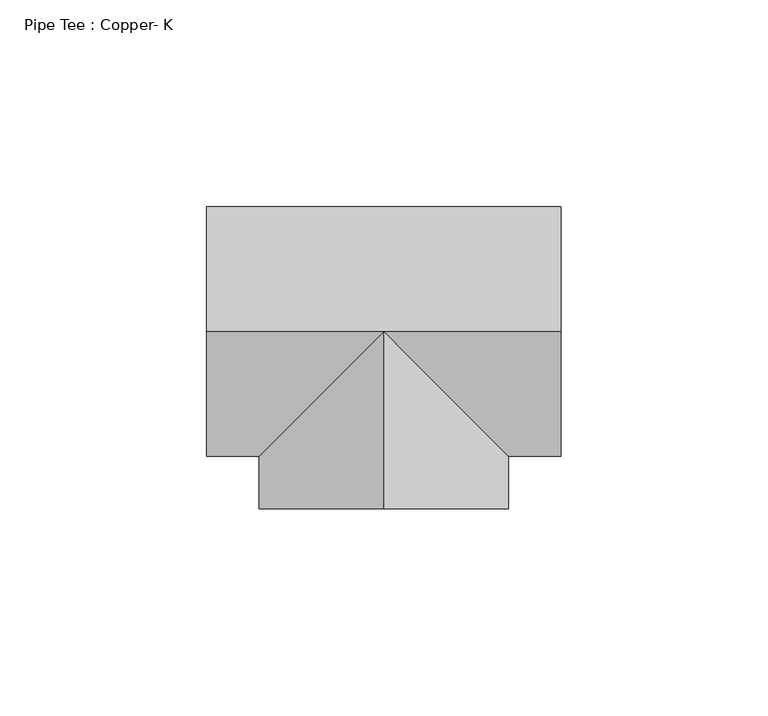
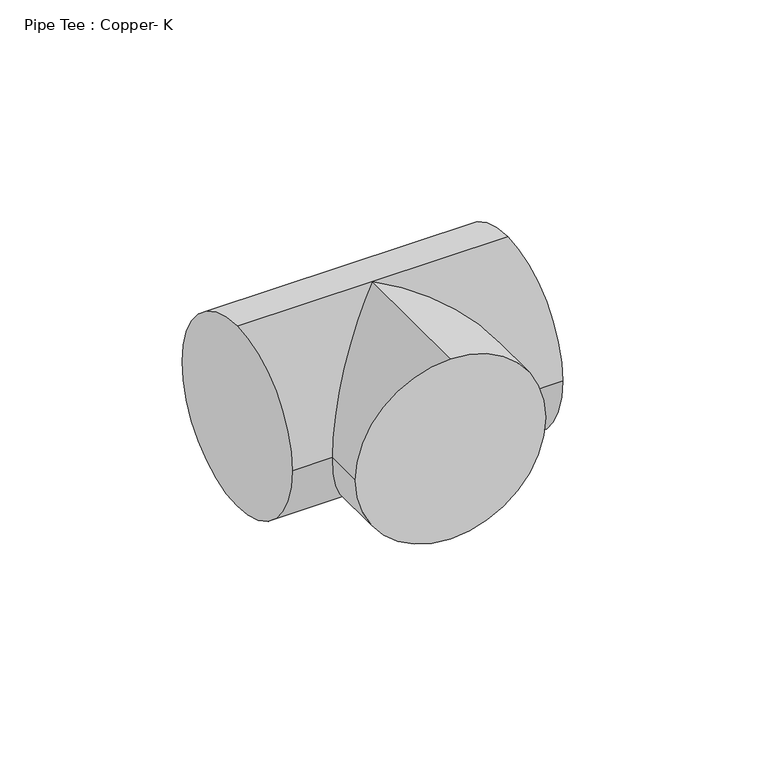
"""IFC4 building model written with IfcOpenShell, lengths in millimetres: pipe fitting geometry, Pipe Tee : Copper- K."""

from ifc_helpers import new_model, si_unit, frame, origin, place, context, project, spatial, circle_curve, ellipse_curve, source, transform, mapped, element, save
from ifc_brep_helpers import plane_surface, cylinder_surface, advanced_brep


def pipe_tee_copper_k_36278b8a(model_context):
    return source(origin(), model_context, "Body", "AdvancedBrep", [
        advanced_brep(
        [(-42.8625, 0.0, 30.1625), (-42.8625, 30.1625, 0.0), (-42.8625, 0.0, -30.1625), (-42.8625, -30.1625, 0.0), (42.8625, 0.0, 30.1625), (42.8625, -30.1625, 0.0), (42.8625, 0.0, -30.1625), (42.8625, 30.1625, 0.0), (0.0, 0.0, 30.1625), (0.0, 0.0, -30.1625), (-30.1625, -30.1625, 0.0), (30.1625, -30.1625, 0.0), (0.0, -42.8625, 30.1625), (-30.1625, -42.8625, 0.0), (0.0, -42.8625, -30.1625), (30.1625, -42.8625, 0.0)],
        [
            (0, 1, circle_curve(frame((-42.8625, 0.0, 0.0), z_axis=(-1.0, 0.0, 0.0), x_axis=(0.0, 1.0, 0.0)), 30.1625)),
            (1, 2, circle_curve(frame((-42.8625, 0.0, 0.0), z_axis=(-1.0, 0.0, 0.0), x_axis=(0.0, 1.0, 0.0)), 30.1625)),
            (2, 3, circle_curve(frame((-42.8625, 0.0, 0.0), z_axis=(-1.0, 0.0, 0.0), x_axis=(0.0, 1.0, 0.0)), 30.1625)),
            (3, 0, circle_curve(frame((-42.8625, 0.0, 0.0), z_axis=(-1.0, 0.0, 0.0), x_axis=(0.0, 1.0, 0.0)), 30.1625)),
            (4, 5, circle_curve(frame((42.8625, 0.0, 0.0), z_axis=(1.0, 0.0, 0.0), x_axis=(0.0, 1.0, 0.0)), 30.1625)),
            (5, 6, circle_curve(frame((42.8625, 0.0, 0.0), z_axis=(1.0, 0.0, 0.0), x_axis=(0.0, 1.0, 0.0)), 30.1625)),
            (6, 7, circle_curve(frame((42.8625, 0.0, 0.0), z_axis=(1.0, 0.0, 0.0), x_axis=(0.0, 1.0, 0.0)), 30.1625)),
            (7, 4, circle_curve(frame((42.8625, 0.0, 0.0), z_axis=(1.0, 0.0, 0.0), x_axis=(0.0, 1.0, 0.0)), 30.1625)),
            (0, 8),
            (8, 4),
            (7, 1),
            (6, 9),
            (9, 2),
            (9, 10, ellipse_curve(frame((0.0, 0.0, 0.0), z_axis=(-0.707106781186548, 0.7071067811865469, 0.0), x_axis=(-0.7071067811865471, -0.7071067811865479, 0.0)), 42.6562166, 30.1625)),
            (10, 3),
            (5, 11),
            (11, 9, ellipse_curve(frame((0.0, 0.0, 0.0), z_axis=(0.7071067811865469, 0.7071067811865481, 0.0), x_axis=(-0.7071067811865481, 0.7071067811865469, 0.0)), 42.6562166, 30.1625)),
            (10, 8, ellipse_curve(frame((0.0, 0.0, 0.0), z_axis=(-0.707106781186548, 0.7071067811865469, 0.0), x_axis=(-0.7071067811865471, -0.7071067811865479, 0.0)), 42.6562166, 30.1625)),
            (8, 11, ellipse_curve(frame((0.0, 0.0, 0.0), z_axis=(0.7071067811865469, 0.7071067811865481, 0.0), x_axis=(-0.7071067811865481, 0.7071067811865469, 0.0)), 42.6562166, 30.1625)),
            (12, 13, circle_curve(frame((0.0, -42.8625, 0.0), z_axis=(0.0, -1.0, 0.0), x_axis=(1.0, 0.0, 0.0)), 30.1625)),
            (13, 14, circle_curve(frame((0.0, -42.8625, 0.0), z_axis=(0.0, -1.0, 0.0), x_axis=(1.0, 0.0, 0.0)), 30.1625)),
            (14, 15, circle_curve(frame((0.0, -42.8625, 0.0), z_axis=(0.0, -1.0, 0.0), x_axis=(1.0, 0.0, 0.0)), 30.1625)),
            (15, 12, circle_curve(frame((0.0, -42.8625, 0.0), z_axis=(0.0, -1.0, 0.0), x_axis=(1.0, 0.0, 0.0)), 30.1625)),
            (15, 11),
            (8, 12),
            (14, 9),
            (13, 10),
        ],
        [
            plane_surface(frame((-42.8625, 0.0, 0.0), z_axis=(-1.0, 0.0, 0.0), x_axis=(0.0, 0.0, 1.0))),
            plane_surface(frame((42.8625, 0.0, 0.0), z_axis=(1.0, 0.0, 0.0), x_axis=(0.0, 0.0, 1.0))),
            cylinder_surface(frame((-42.8625, 0.0, 0.0), z_axis=(-1.0, 0.0, 0.0), x_axis=(0.0, 1.0, 0.0)), 30.1625),
            plane_surface(frame((0.0, -42.8625, 0.0), z_axis=(0.0, -1.0, 0.0), x_axis=(0.0, 0.0, 1.0))),
            cylinder_surface(frame((0.0, 0.0, 0.0), z_axis=(0.0, 1.0, 0.0), x_axis=(1.0, 0.0, 0.0)), 30.1625),
        ],
        [
            (0, [[1, 2, 3, 4]]),
            (1, [[5, 6, 7, 8]]),
            (2, [[-1, 9, 10, -8, 11]]),
            (2, [[-2, -11, -7, 12, 13]]),
            (2, [[-3, -13, 14, 15]]),
            (2, [[-6, 16, 17, -12]]),
            (2, [[-4, -15, 18, -9]]),
            (2, [[-5, -10, 19, -16]]),
            (3, [[20, 21, 22, 23]]),
            (4, [[-23, 24, -19, 25]]),
            (4, [[-22, 26, -17, -24]]),
            (4, [[-21, 27, -14, -26]]),
            (4, [[-20, -25, -18, -27]]),
        ],
    ),
        advanced_brep(
        [(-42.8625, 0.0, 30.1625), (-42.8625, 30.1625, 0.0), (-42.8625, 0.0, -30.1625), (-42.8625, -30.1625, 0.0), (42.8625, 0.0, 30.1625), (42.8625, -30.1625, 0.0), (42.8625, 0.0, -30.1625), (42.8625, 30.1625, 0.0), (0.0, 0.0, 30.1625), (0.0, 0.0, -30.1625), (-30.1625, -30.1625, 0.0), (30.1625, -30.1625, 0.0), (0.0, -42.8625, 30.1625), (-30.1625, -42.8625, 0.0), (0.0, -42.8625, -30.1625), (30.1625, -42.8625, 0.0)],
        [
            (0, 1, circle_curve(frame((-42.8625, 0.0, 0.0), z_axis=(-1.0, 0.0, 0.0), x_axis=(0.0, 1.0, 0.0)), 30.1625)),
            (1, 2, circle_curve(frame((-42.8625, 0.0, 0.0), z_axis=(-1.0, 0.0, 0.0), x_axis=(0.0, 1.0, 0.0)), 30.1625)),
            (2, 3, circle_curve(frame((-42.8625, 0.0, 0.0), z_axis=(-1.0, 0.0, 0.0), x_axis=(0.0, 1.0, 0.0)), 30.1625)),
            (3, 0, circle_curve(frame((-42.8625, 0.0, 0.0), z_axis=(-1.0, 0.0, 0.0), x_axis=(0.0, 1.0, 0.0)), 30.1625)),
            (4, 5, circle_curve(frame((42.8625, 0.0, 0.0), z_axis=(1.0, 0.0, 0.0), x_axis=(0.0, 1.0, 0.0)), 30.1625)),
            (5, 6, circle_curve(frame((42.8625, 0.0, 0.0), z_axis=(1.0, 0.0, 0.0), x_axis=(0.0, 1.0, 0.0)), 30.1625)),
            (6, 7, circle_curve(frame((42.8625, 0.0, 0.0), z_axis=(1.0, 0.0, 0.0), x_axis=(0.0, 1.0, 0.0)), 30.1625)),
            (7, 4, circle_curve(frame((42.8625, 0.0, 0.0), z_axis=(1.0, 0.0, 0.0), x_axis=(0.0, 1.0, 0.0)), 30.1625)),
            (0, 8),
            (8, 4),
            (7, 1),
            (6, 9),
            (9, 2),
            (9, 10, ellipse_curve(frame((0.0, 0.0, 0.0), z_axis=(-0.707106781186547, 0.7071067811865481, 0.0), x_axis=(-0.707106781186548, -0.707106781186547, 0.0)), 42.6562166, 30.1625)),
            (10, 3),
            (5, 11),
            (11, 9, ellipse_curve(frame((0.0, 0.0, 0.0), z_axis=(0.707106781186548, 0.7071067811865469, 0.0), x_axis=(-0.707106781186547, 0.707106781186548, 0.0)), 42.6562166, 30.1625)),
            (10, 8, ellipse_curve(frame((0.0, 0.0, 0.0), z_axis=(-0.707106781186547, 0.7071067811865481, 0.0), x_axis=(-0.707106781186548, -0.707106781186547, 0.0)), 42.6562166, 30.1625)),
            (8, 11, ellipse_curve(frame((0.0, 0.0, 0.0), z_axis=(0.707106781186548, 0.7071067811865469, 0.0), x_axis=(-0.707106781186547, 0.707106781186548, 0.0)), 42.6562166, 30.1625)),
            (12, 13, circle_curve(frame((0.0, -42.8625, 0.0), z_axis=(0.0, -1.0, 0.0), x_axis=(1.0, 0.0, 0.0)), 30.1625)),
            (13, 14, circle_curve(frame((0.0, -42.8625, 0.0), z_axis=(0.0, -1.0, 0.0), x_axis=(1.0, 0.0, 0.0)), 30.1625)),
            (14, 15, circle_curve(frame((0.0, -42.8625, 0.0), z_axis=(0.0, -1.0, 0.0), x_axis=(1.0, 0.0, 0.0)), 30.1625)),
            (15, 12, circle_curve(frame((0.0, -42.8625, 0.0), z_axis=(0.0, -1.0, 0.0), x_axis=(1.0, 0.0, 0.0)), 30.1625)),
            (15, 11),
            (8, 12),
            (14, 9),
            (13, 10),
        ],
        [
            plane_surface(frame((-42.8625, 0.0, 0.0), z_axis=(-1.0, 0.0, 0.0), x_axis=(0.0, 0.0, 1.0))),
            plane_surface(frame((42.8625, 0.0, 0.0), z_axis=(1.0, 0.0, 0.0), x_axis=(0.0, 0.0, 1.0))),
            cylinder_surface(frame((-42.8625, 0.0, 0.0), z_axis=(-1.0, 0.0, 0.0), x_axis=(0.0, 1.0, 0.0)), 30.1625),
            plane_surface(frame((0.0, -42.8625, 0.0), z_axis=(0.0, -1.0, 0.0), x_axis=(0.0, 0.0, 1.0))),
            cylinder_surface(frame((0.0, 0.0, 0.0), z_axis=(0.0, 1.0, 0.0), x_axis=(1.0, 0.0, 0.0)), 30.1625),
        ],
        [
            (0, [[1, 2, 3, 4]]),
            (1, [[5, 6, 7, 8]]),
            (2, [[-1, 9, 10, -8, 11]]),
            (2, [[-2, -11, -7, 12, 13]]),
            (2, [[-3, -13, 14, 15]]),
            (2, [[-6, 16, 17, -12]]),
            (2, [[-4, -15, 18, -9]]),
            (2, [[-5, -10, 19, -16]]),
            (3, [[20, 21, 22, 23]]),
            (4, [[-23, 24, -19, 25]]),
            (4, [[-22, 26, -17, -24]]),
            (4, [[-21, 27, -14, -26]]),
            (4, [[-20, -25, -18, -27]]),
        ],
    ),
    ])


if __name__ == "__main__":
    model = new_model("IFC4")
    model_context = context("Model", 3, world=origin())
    ifc_project = project(units=[si_unit("LENGTHUNIT", "METRE", prefix="MILLI")], contexts=[model_context])
    site = spatial("IfcSite", under=ifc_project)
    building = spatial("IfcBuilding", under=site)
    placement = place(None, origin())
    pipe_tee_copper_k_shape = pipe_tee_copper_k_36278b8a(model_context)
    element("IfcPipeFitting", 1, ObjectType="Pipe Tee : Copper- K", at=placement, inside=building, context=model_context, shape_type="MappedRepresentation", body=[
        mapped(pipe_tee_copper_k_shape, transform((0.0, 0.0, 0.0), x_axis=(1.0, 0.0, 0.0), y_axis=(0.0, 1.0, 0.0), z_axis=(0.0, 0.0, 1.0))),
    ])
    save(model, "model.ifc")
